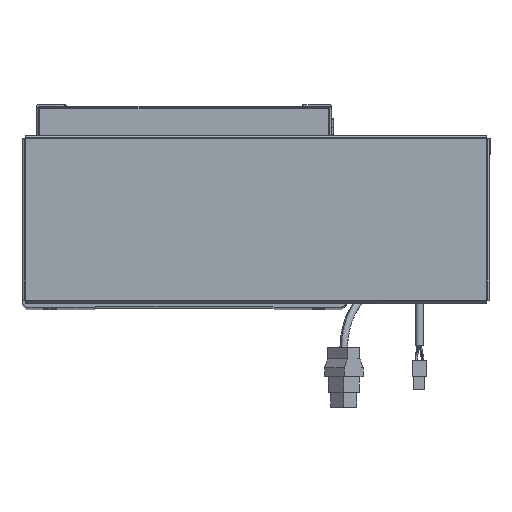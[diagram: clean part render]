
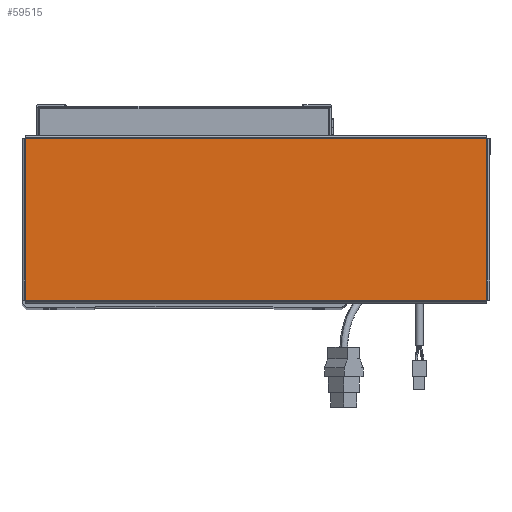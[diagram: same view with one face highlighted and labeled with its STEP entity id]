
A CAD part, top view. The second image highlights one B-rep face of the part: STEP entity #59515.
In plain terms, the highlighted planar face has unit normal (0, 0, 1).
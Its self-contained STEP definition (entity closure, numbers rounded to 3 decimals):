
#2099 = VERTEX_POINT ( 'NONE', #20291 ) ;
#2948 = EDGE_CURVE ( 'NONE', #53866, #2099, #13877, .T. ) ;
#10747 = EDGE_LOOP ( 'NONE', ( #30772, #56898, #23487, #52438 ) ) ;
#11833 = CARTESIAN_POINT ( 'NONE',  ( 156.543, 54.763, 0. ) ) ;
#13519 = LINE ( 'NONE', #52431, #36287 ) ;
#13877 = LINE ( 'NONE', #11833, #24088 ) ;
#15441 = VECTOR ( 'NONE', #40311, 1000. ) ;
#18017 = DIRECTION ( 'NONE',  ( 0., 1., 0. ) ) ;
#18719 = CARTESIAN_POINT ( 'NONE',  ( 156.513, -54.763, 0. ) ) ;
#20291 = CARTESIAN_POINT ( 'NONE',  ( -156.513, 54.763, 0. ) ) ;
#21754 = LINE ( 'NONE', #59891, #15441 ) ;
#23487 = ORIENTED_EDGE ( 'NONE', *, *, #2948, .T. ) ;
#24088 = VECTOR ( 'NONE', #46907, 1000. ) ;
#26041 = VERTEX_POINT ( 'NONE', #18719 ) ;
#27545 = EDGE_CURVE ( 'NONE', #26041, #53866, #13519, .T. ) ;
#27992 = AXIS2_PLACEMENT_3D ( 'NONE', #54964, #34975, #45041 ) ;
#30772 = ORIENTED_EDGE ( 'NONE', *, *, #63719, .T. ) ;
#32245 = EDGE_CURVE ( 'NONE', #2099, #39312, #21754, .T. ) ;
#34975 = DIRECTION ( 'NONE',  ( 0., 0., 1. ) ) ;
#36287 = VECTOR ( 'NONE', #18017, 1000. ) ;
#36869 = FACE_OUTER_BOUND ( 'NONE', #10747, .T. ) ;
#37374 = VECTOR ( 'NONE', #58355, 1000. ) ;
#37701 = CARTESIAN_POINT ( 'NONE',  ( -156.543, -54.763, 0. ) ) ;
#39312 = VERTEX_POINT ( 'NONE', #40511 ) ;
#40311 = DIRECTION ( 'NONE',  ( 0., -1., 0. ) ) ;
#40511 = CARTESIAN_POINT ( 'NONE',  ( -156.513, -54.763, 0. ) ) ;
#43658 = CARTESIAN_POINT ( 'NONE',  ( 156.513, 54.763, 0. ) ) ;
#45041 = DIRECTION ( 'NONE',  ( 1., 0., 0. ) ) ;
#46907 = DIRECTION ( 'NONE',  ( -1., 0., 0. ) ) ;
#50764 = LINE ( 'NONE', #37701, #37374 ) ;
#52431 = CARTESIAN_POINT ( 'NONE',  ( 156.513, -54.793, 0. ) ) ;
#52438 = ORIENTED_EDGE ( 'NONE', *, *, #32245, .T. ) ;
#53866 = VERTEX_POINT ( 'NONE', #43658 ) ;
#54964 = CARTESIAN_POINT ( 'NONE',  ( 0., 0., 0. ) ) ;
#56898 = ORIENTED_EDGE ( 'NONE', *, *, #27545, .T. ) ;
#58355 = DIRECTION ( 'NONE',  ( 1., 0., 0. ) ) ;
#59515 = ADVANCED_FACE ( 'NONE', ( #36869 ), #60465, .T. ) ;
#59891 = CARTESIAN_POINT ( 'NONE',  ( -156.513, 54.793, 0. ) ) ;
#60465 = PLANE ( 'NONE',  #27992 ) ;
#63719 = EDGE_CURVE ( 'NONE', #39312, #26041, #50764, .T. ) ;
